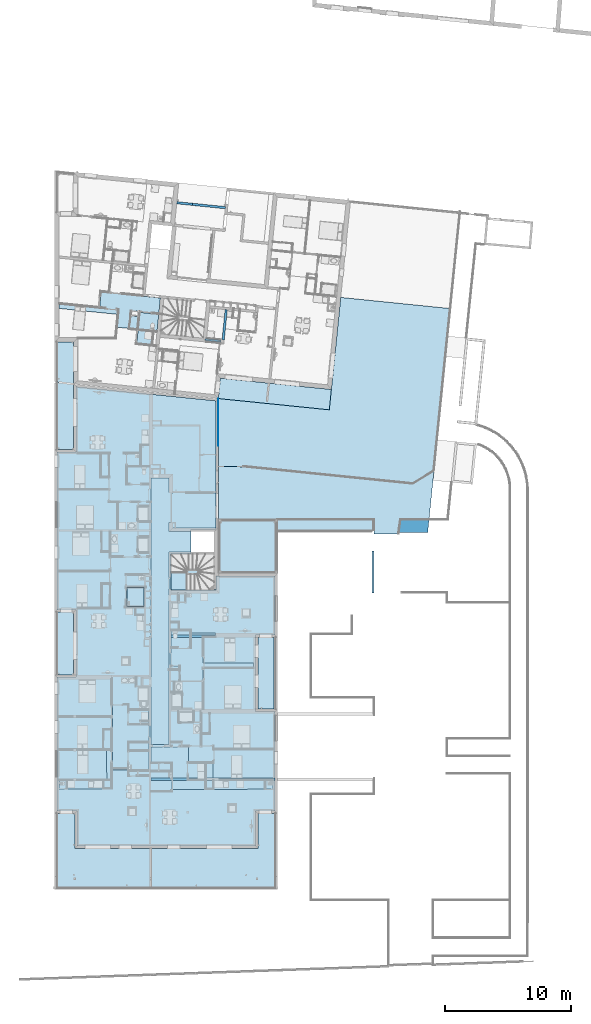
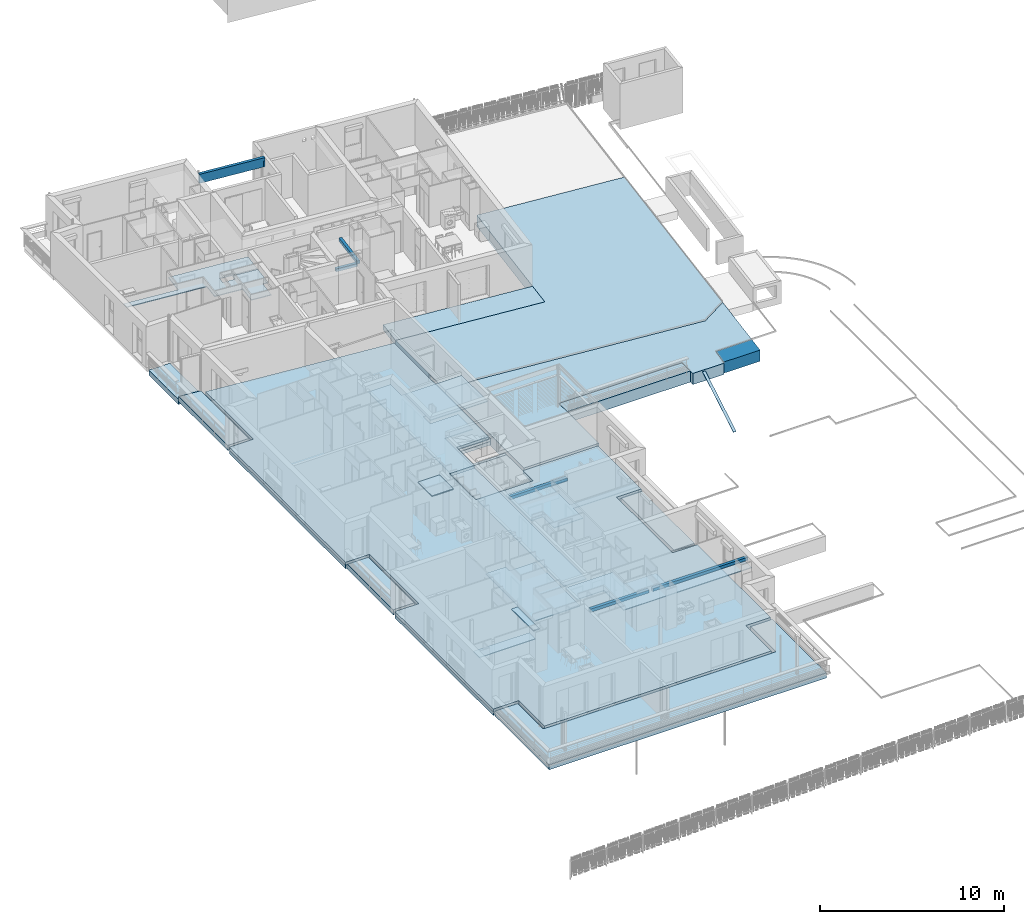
# One storey, part 18 of 171: 25 slabs, 7 beams.
"""IFC2X3 building model written with IfcOpenShell, lengths in millimetres."""

from ifc_helpers import new_model, entity, si_unit, converted_unit, derived_unit, money_unit, direction, frame, frame_2d, origin_with_axes, place, context, subcontext, project, spatial, polyline, rectangle, outline, extrude, material, layer, layer_set, layer_usage, type_object, element, save


model = new_model("IFC2X3")

# Units and contexts
model_context = context("Model", 3, precision=0.01, world=origin_with_axes(), true_north=direction((0.0, 1.0)))
body_context = subcontext(model_context, "Body", "Model", "MODEL_VIEW")
ifc_project = project(units=[si_unit("LENGTHUNIT", "METRE", prefix="MILLI"), si_unit("AREAUNIT", "SQUARE_METRE"), si_unit("VOLUMEUNIT", "CUBIC_METRE"), converted_unit("PLANEANGLEUNIT", "DEGREE", entity("IfcPlaneAngleMeasure", 0.0174532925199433), si_unit("PLANEANGLEUNIT", "RADIAN"), dimensions=[0, 0, 0, 0, 0, 0, 0]), money_unit("USD"), converted_unit("TIMEUNIT", "Year", entity("IfcTimeMeasure", 31557600.0), si_unit("TIMEUNIT", "SECOND"), dimensions=[0, 0, 1, 0, 0, 0, 0]), si_unit("MASSUNIT", "GRAM", prefix="KILO"), si_unit("THERMODYNAMICTEMPERATUREUNIT", "DEGREE_CELSIUS"), si_unit("LUMINOUSINTENSITYUNIT", "LUMEN"), si_unit("ENERGYUNIT", "JOULE", prefix="MEGA"), derived_unit("THERMALCONDUCTANCEUNIT", [(si_unit("POWERUNIT", "WATT"), 1), (si_unit("LENGTHUNIT", "METRE"), -1), (si_unit("THERMODYNAMICTEMPERATUREUNIT", "KELVIN"), -1)]), derived_unit("SPECIFICHEATCAPACITYUNIT", [(si_unit("ENERGYUNIT", "JOULE"), 1), (si_unit("MASSUNIT", "GRAM", prefix="KILO"), -1), (si_unit("THERMODYNAMICTEMPERATUREUNIT", "KELVIN"), -1)]), derived_unit("MASSDENSITYUNIT", [(si_unit("MASSUNIT", "GRAM", prefix="KILO"), 1), (si_unit("VOLUMEUNIT", "CUBIC_METRE"), -1)])], contexts=[model_context])

# Site, building, storey
site_placement = place(None, origin_with_axes())
site = spatial("IfcSite", under=ifc_project, at=site_placement, Name="Site", CompositionType="ELEMENT")
building_placement = place(site_placement, origin_with_axes())
building = spatial("IfcBuilding", under=site, at=building_placement, Name="Bâtiment", CompositionType="ELEMENT")
storey_placement = place(building_placement, frame((0.0, 0.0, 3000.0), z_axis=(0.0, 0.0, 1.0), x_axis=(1.0, 0.0, 0.0)))
storey = spatial("IfcBuildingStorey", under=building, at=storey_placement, Name="rdc", CompositionType="ELEMENT", Elevation=3000.0)

# Beams
ifc_material_1 = material(Name="Parpaing 2676271321")
beam_type_1 = type_object("IfcBeamType", Name="Parpaing 2676271321 180 x 200", PredefinedType="NOTDEFINED")
beam_1_placement = place(storey_placement, frame((2225892.31835671, -640935.3255383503, 2500.0), z_axis=(0.0, 0.0, 1.0), x_axis=(0.0, -1.0, 0.0)))
element("IfcBeam", 1, at=beam_1_placement, inside=storey, type_object=beam_type_1, material=ifc_material_1, Name="Poutre-010", context=body_context, shape_type="SweptSolid", body=[
    extrude(rectangle(XDim=200.0, YDim=180.0, at=frame_2d((-100.0, 0.0), x_axis=(1.0, 0.0))), frame((0.0, 0.0, 0.0), z_axis=(0.0, 1.0, 0.0), x_axis=(0.0, 0.0, 1.0)), (0.0, 0.0, 1.0), 3542.494535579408),
])
beam_2_placement = place(storey_placement, frame((2224312.122682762, -652323.3050478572, 2500.0), z_axis=(0.0, 0.0, 1.0), x_axis=(7.656579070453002e-05, -0.9999999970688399, 0.0)))
element("IfcBeam", 2, at=beam_2_placement, inside=storey, type_object=beam_type_1, material=ifc_material_1, Name="Poutre-010", context=body_context, shape_type="SweptSolid", body=[
    extrude(rectangle(XDim=200.0, YDim=180.0, at=frame_2d((-100.0, 0.0), x_axis=(1.0, 0.0))), frame((0.0, 0.0, 0.0), z_axis=(0.0, 1.0, 0.0), x_axis=(0.0, 0.0, 1.0)), (0.0, 0.0, 1.0), 3668.081799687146),
])
ifc_material_2 = material(Name="Brique 1 268964100")
beam_type_2 = type_object("IfcBeamType", Name="Brique 1 268964100 180 x 200", PredefinedType="NOTDEFINED")
beam_3_placement = place(storey_placement, frame((2230040.489356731, -617334.0619865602, 2300.0), z_axis=(0.0, 0.0, 1.0), x_axis=(0.9948759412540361, -0.1011032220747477, 0.0)))
element("IfcBeam", 3, at=beam_3_placement, inside=storey, type_object=beam_type_2, material=ifc_material_2, Name="Poutre-010", context=body_context, shape_type="SweptSolid", body=[
    extrude(rectangle(XDim=200.0, YDim=180.0, at=frame_2d((-100.0, 0.0), x_axis=(1.0, 0.0))), frame((0.0, 0.0, 0.0), z_axis=(0.0, 1.0, 0.0), x_axis=(0.0, 0.0, 1.0)), (0.0, 0.0, 1.0), 2403.976836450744),
])
beam_4_placement = place(storey_placement, frame((2228230.204709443, -652323.005056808, 2500.0), z_axis=(0.0, 0.0, 1.0), x_axis=(7.656579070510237e-05, -0.9999999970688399, 0.0)))
element("IfcBeam", 4, at=beam_4_placement, inside=storey, type_object=beam_type_2, material=ifc_material_2, Name="Poutre-010", context=body_context, shape_type="SweptSolid", body=[
    extrude(rectangle(XDim=200.0, YDim=180.0, at=frame_2d((-100.0, 0.0), x_axis=(1.0, 0.0))), frame((0.0, 0.0, 0.0), z_axis=(0.0, 1.0, 0.0), x_axis=(0.0, 0.0, 1.0)), (0.0, 0.0, 1.0), 5946.466605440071),
])
beam_5_placement = place(storey_placement, frame((2228610.301146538, -617315.562762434, 2300.0), z_axis=(0.0, 0.0, 1.0), x_axis=(-0.1011032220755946, -0.9948759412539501, 0.0)))
element("IfcBeam", 5, at=beam_5_placement, inside=storey, type_object=beam_type_2, material=ifc_material_2, Name="Poutre-010", context=body_context, shape_type="SweptSolid", body=[
    extrude(rectangle(XDim=200.0, YDim=180.0, at=frame_2d((-100.0, 0.0), x_axis=(1.0, 0.0))), frame((0.0, 0.0, 0.0), z_axis=(0.0, 1.0, 0.0), x_axis=(0.0, 0.0, 1.0)), (0.0, 0.0, 1.0), 1264.730172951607),
])
beam_type_3 = type_object("IfcBeamType", Name="Parpaing 2676271321 180 x 600", PredefinedType="NOTDEFINED")
beam_6_placement = place(storey_placement, frame((2226352.130988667, -606426.3743759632, 2750.0), z_axis=(0.0, 0.0, 1.0), x_axis=(-0.1017212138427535, -0.9948129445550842, 0.0)))
element("IfcBeam", 6, at=beam_6_placement, inside=storey, type_object=beam_type_3, material=ifc_material_1, Name="Poutre-010", context=body_context, shape_type="SweptSolid", body=[
    extrude(rectangle(XDim=600.0003846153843, YDim=180.0, at=frame_2d((-300.0001923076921, 0.0), x_axis=(1.0, 0.0))), frame((0.0, 0.0, 0.0), z_axis=(0.0, 1.0, 0.0), x_axis=(0.0, 0.0, 1.0)), (0.0, 0.0, 1.0), 3882.804537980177),
])
beam_type_4 = type_object("IfcBeamType", Name="Brique 1 268964100 180 x 400", PredefinedType="NOTDEFINED")
beam_7_placement = place(storey_placement, frame((2230214.795204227, -606821.3379666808, 2550.0), z_axis=(0.0, 0.0, 1.0), x_axis=(0.1020197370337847, 0.9947823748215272, 0.0)))
element("IfcBeam", 7, at=beam_7_placement, inside=storey, type_object=beam_type_4, material=ifc_material_2, Name="Poutre-010", context=body_context, shape_type="SweptSolid", body=[
    extrude(rectangle(XDim=400.0015925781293, YDim=180.0, at=frame_2d((-200.0007962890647, 0.0), x_axis=(1.0, 0.0))), frame((0.0, 0.0, 0.0), z_axis=(0.0, 1.0, 0.0), x_axis=(0.0, 0.0, 1.0)), (0.0, 0.0, 1.0), 2618.074726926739),
])

# Slabs
ifc_material_3 = material(Name="100 % (2) 313493396")
ifc_layer_1 = layer(ifc_material_3, 50.0, ventilated="UNKNOWN")
ifc_layer_set_1 = layer_set([ifc_layer_1], Name="dalle 5")
ifc_layer_usage_1 = layer_usage(ifc_layer_set_1, "AXIS3", "NEGATIVE", 50.0)
slab_type_1 = type_object("IfcSlabType", Name="dalle 5 50", PredefinedType="FLOOR")
slab_1_placement = place(storey_placement, frame((2225892.318356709, -642533.5434742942, 2300.0), z_axis=(0.0, 0.0, 1.0), x_axis=(1.0, 0.0, 0.0)))
element("IfcSlab", 8, at=slab_1_placement, inside=storey, type_object=slab_type_1, material=ifc_layer_usage_1, Name="Dalle-042", PredefinedType="FLOOR", context=body_context, shape_type="SweptSolid", body=[
    extrude(outline(polyline([(0.0, 0.0), (-0.005281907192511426, -749.5685941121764), (720.1120427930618, -749.6447132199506), (719.9840917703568, -1960.717417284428), (2538.332032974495, -1955.777904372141), (2538.332032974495, -889.0664764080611), (6574.339741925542, -891.8790627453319), (6574.339741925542, -518.6680570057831), (2538.332032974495, -518.6680570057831), (2538.332030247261, 1578.217935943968), (3542.494535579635, 1578.217935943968), (3542.494535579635, 1848.217935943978), (1520.000028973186, 1848.217935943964), (1520.000028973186, 2034.631520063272), (575.7473953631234, 2034.631520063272), (0.0, 2034.631520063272), (0.0, 0.0)])), frame((0.0, 0.0, -50.0), z_axis=(0.0, 0.0, 1.0), x_axis=(1.0, 0.0, 0.0)), (0.0, 0.0, 1.0), 50.0),
])
ifc_layer_usage_2 = layer_usage(ifc_layer_set_1, "AXIS3", "NEGATIVE", 50.0)
slab_2_placement = place(storey_placement, frame((2224312.357412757, -649729.5922298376, 2300.0), z_axis=(0.0, 0.0, 1.0), x_axis=(1.0, 0.0, 0.0)))
element("IfcSlab", 9, at=slab_2_placement, inside=storey, type_object=slab_type_1, material=ifc_layer_usage_2, Name="Dalle-032", PredefinedType="FLOOR", context=body_context, shape_type="SweptSolid", body=[
    extrude(outline(polyline([(0.0, 0.0), (-0.005953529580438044, -1254.759483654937), (1674.465558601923, -1254.759483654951), (1674.465536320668, -3397.344232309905), (2889.973121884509, -3397.344087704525), (9704.283930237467, -3375.757980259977), (9698.325033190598, -2683.261349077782), (4924.523158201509, -2683.342617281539), (4924.514991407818, -1245.353946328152), (2959.964931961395, -1245.353946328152), (2959.964931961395, -0.0004059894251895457), (2819.973121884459, -0.0002892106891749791), (0.0, 0.0)])), frame((0.0, 0.0, -50.0), z_axis=(0.0, 0.0, 1.0), x_axis=(1.0, 0.0, 0.0)), (0.0, 0.0, 1.0), 50.0),
])
ifc_layer_usage_3 = layer_usage(ifc_layer_set_1, "AXIS3", "NEGATIVE", 50.0)
slab_3_placement = place(storey_placement, frame((2222372.398589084, -638582.0258711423, 2300.0), z_axis=(0.0, 0.0, 1.0), x_axis=(1.0, 0.0, 0.0)))
element("IfcSlab", 10, at=slab_3_placement, inside=storey, type_object=slab_type_1, material=ifc_layer_usage_3, Name="Dalle-040", PredefinedType="FLOOR", context=body_context, shape_type="SweptSolid", body=[
    extrude(outline(polyline([(0.0, 0.0), (1360.00139188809, 0.0), (1360.00139188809, 1524.728116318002), (0.0003816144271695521, 1524.727802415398), (0.0, 0.0)])), frame((0.0, 0.0, -50.0), z_axis=(0.0, 0.0, 1.0), x_axis=(1.0, 0.0, 0.0)), (0.0, 0.0, 1.0), 50.0),
])
ifc_layer_usage_4 = layer_usage(ifc_layer_set_1, "AXIS3", "NEGATIVE", 50.0)
slab_4_placement = place(storey_placement, frame((2222372.398971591, -637057.2980687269, 2300.0), z_axis=(0.0, 0.0, 1.0), x_axis=(1.0, 0.0, 0.0)))
element("IfcSlab", 11, at=slab_4_placement, inside=storey, type_object=slab_type_1, material=ifc_layer_usage_4, Name="Dalle-041", PredefinedType="FLOOR", context=body_context, shape_type="SweptSolid", body=[
    extrude(outline(polyline([(0.0, 0.0), (-0.0003825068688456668, -1524.727446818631), (1360.001077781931, -1524.727802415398), (1360.001088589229, 0.0003139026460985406), (0.0, 0.0)])), frame((0.0, 0.0, -50.0), z_axis=(0.0, 0.0, 1.0), x_axis=(1.0, 0.0, 0.0)), (0.0, 0.0, 1.0), 50.0),
])
ifc_layer_usage_5 = layer_usage(ifc_layer_set_1, "AXIS3", "NEGATIVE", 50.0)
slab_5_placement = place(storey_placement, frame((2216974.23336761, -652412.6820336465, 2300.0), z_axis=(0.0, 0.0, 1.0), x_axis=(1.0, 0.0, 0.0)))
element("IfcSlab", 12, at=slab_5_placement, inside=storey, type_object=slab_type_1, material=ifc_layer_usage_5, Name="Dalle-032", PredefinedType="FLOOR", context=body_context, shape_type="SweptSolid", body=[
    extrude(outline(polyline([(0.0, 0.0), (0.0, -674.8797828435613), (3507.707715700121, -670.2777942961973), (3508.117809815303, 0.0), (0.0, 0.0)])), frame((0.0, 0.0, -50.0), z_axis=(0.0, 0.0, 1.0), x_axis=(1.0, 0.0, 0.0)), (0.0, 0.0, 1.0), 50.0),
])
ifc_layer_usage_6 = layer_usage(ifc_layer_set_1, "AXIS3", "NEGATIVE", 50.0)
slab_6_placement = place(storey_placement, frame((2229473.476037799, -629520.0608160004, 2300.0), z_axis=(0.0, 0.0, 1.0), x_axis=(1.0, 0.0, 0.0)))
element("IfcSlab", 13, at=slab_6_placement, inside=storey, type_object=slab_type_1, material=ifc_layer_usage_6, Name="Dalle-039", PredefinedType="FLOOR", context=body_context, shape_type="SweptSolid", body=[
    extrude(outline(polyline([(0.0, 0.0), (-3441.157681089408, 14.58837006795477), (-3441.157681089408, -20.73200067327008), (-3581.157674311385, -20.63364688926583), (-3581.157676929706, -2137.615520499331), (-3581.157681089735, -2813.453863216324), (-2891.772850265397, -2813.841832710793), (-5.503579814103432e-07, -2813.453863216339), (0.0, 0.0)])), frame((0.0, 0.0, -50.0), z_axis=(0.0, 0.0, 1.0), x_axis=(1.0, 0.0, 0.0)), (0.0, 0.0, 1.0), 50.0),
])
ifc_layer_usage_7 = layer_usage(ifc_layer_set_1, "AXIS3", "NEGATIVE", 50.0)
slab_7_placement = place(storey_placement, frame((2224312.367184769, -628327.4571735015, 2300.0), z_axis=(0.0, 0.0, 1.0), x_axis=(1.0, 0.0, 0.0)))
element("IfcSlab", 14, at=slab_7_placement, inside=storey, type_object=slab_type_1, material=ifc_layer_usage_7, Name="Dalle-038", PredefinedType="FLOOR", context=body_context, shape_type="SweptSolid", body=[
    extrude(outline(polyline([(0.0, 0.0), (-0.009803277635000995, -21222.13514609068), (1399.951056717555, -21222.13546232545), (1399.951056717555, -5886.05740444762), (3151.385984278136, -5886.05740444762), (3151.385984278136, -4286.057501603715), (1399.951056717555, -4286.057501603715), (1399.951056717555, -3533.206255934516), (1719.951227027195, -3533.206255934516), (1719.951227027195, -4006.057550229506), (5161.108816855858, -3990.598413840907), (5161.108816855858, -1178.01528641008), (1399.951056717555, -1178.01528641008), (1399.951056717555, 0.0), (0.0, 0.0)])), frame((0.0, 0.0, -50.0), z_axis=(0.0, 0.0, 1.0), x_axis=(1.0, 0.0, 0.0)), (0.0, 0.0, 1.0), 50.0),
])
ifc_layer_usage_8 = layer_usage(ifc_layer_set_1, "AXIS3", "NEGATIVE", 50.0)
slab_8_placement = place(storey_placement, frame((2216974.233348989, -614839.9992476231, 2300.0), z_axis=(0.0, 0.0, 1.0), x_axis=(1.0, 0.0, 0.0)))
element("IfcSlab", 15, at=slab_8_placement, inside=storey, type_object=slab_type_1, material=ifc_layer_usage_8, Name="Dalle-032", PredefinedType="FLOOR", context=body_context, shape_type="SweptSolid", body=[
    extrude(outline(polyline([(0.0, 0.0), (4732.006820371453, -481.2211752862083), (4628.493269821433, -1499.103841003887), (6299.963129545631, -1668.965252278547), (6186.106391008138, -2789.338239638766), (7369.717859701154, -2909.621461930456), (7483.574598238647, -1789.248474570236), (7801.489185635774, -1821.556262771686), (7939.654436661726, -465.4882039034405), (6437.775837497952, -312.8613497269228), (6402.389702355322, -661.0679391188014), (5666.181495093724, -586.251587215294), (5708.644833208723, -168.4037280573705), (7946.749802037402, -395.8487383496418), (8071.90127010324, 832.4921590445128), (6652.041438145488, 976.7839134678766), (3356.039623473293, 1311.96926248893), (3225.526277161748, 28.5884647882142), (3155.885488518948, 35.6705992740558), (0.0, 356.6083247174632), (0.0, 0.0)])), frame((0.0, 0.0, -50.0), z_axis=(0.0, 0.0, 1.0), x_axis=(1.0, 0.0, 0.0)), (0.0, 0.0, 1.0), 50.0),
])
ifc_layer_usage_9 = layer_usage(ifc_layer_set_1, "AXIS3", "NEGATIVE", 50.0)
slab_9_placement = place(storey_placement, frame((2220778.717084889, -652342.6820620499, 2300.0), z_axis=(0.0, 0.0, 1.0), x_axis=(1.0, 0.0, 0.0)))
element("IfcSlab", 16, at=slab_9_placement, inside=storey, type_object=slab_type_1, material=ifc_layer_usage_9, Name="Dalle-032", PredefinedType="FLOOR", context=body_context, shape_type="SweptSolid", body=[
    extrude(outline(polyline([(0.0, 0.0), (373.6340829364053, 0.0), (373.6340829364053, 2351.895436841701), (-18.8633619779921, 2351.895436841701), (0.0, 0.0)])), frame((0.0, 0.0, -50.0), z_axis=(0.0, 0.0, 1.0), x_axis=(1.0, 0.0, 0.0)), (0.0, 0.0, 1.0), 50.0),
])
ifc_layer_usage_10 = layer_usage(ifc_layer_set_1, "AXIS3", "NEGATIVE", 50.0)
slab_10_placement = place(storey_placement, frame((2221222.351124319, -651597.8639283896, 2300.0), z_axis=(0.0, 0.0, 1.0), x_axis=(1.0, 0.0, 0.0)))
element("IfcSlab", 17, at=slab_10_placement, inside=storey, type_object=slab_type_1, material=ifc_layer_usage_10, Name="Dalle-032", PredefinedType="FLOOR", context=body_context, shape_type="SweptSolid", body=[
    extrude(outline(polyline([(0.0, 0.0), (1249.999994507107, -0.5196026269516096), (2910.021103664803, -0.5196026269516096), (2910.019398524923, 4526.43891821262), (2910.020560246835, 4789.007032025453), (2200.652562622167, 4789.007074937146), (1249.999563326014, 4789.007074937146), (1249.999994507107, 5200.839104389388), (0.0, 5200.839104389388), (0.0, 1607.162237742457), (0.0, 99.48057364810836), (0.0, 0.0)])), frame((0.0, 0.0, -50.0), z_axis=(0.0, 0.0, 1.0), x_axis=(1.0, 0.0, 0.0)), (0.0, 0.0, 1.0), 50.0),
])
ifc_material_4 = material(Name="Parpaing 288701002")
ifc_layer_2 = layer(ifc_material_4, 200.0, ventilated="UNKNOWN")
ifc_layer_set_2 = layer_set([ifc_layer_2], Name="dalle 20 0025571715")
ifc_layer_usage_11 = layer_usage(ifc_layer_set_2, "AXIS3", "NEGATIVE", 200.0)
slab_type_2 = type_object("IfcSlabType", Name="dalle 20 0025571715 200", PredefinedType="FLOOR")
slab_11_placement = place(storey_placement, frame((2216814.23334483, -654861.4677782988, 0.0), z_axis=(0.0, 0.0, 1.0), x_axis=(1.0, 0.0, 0.0)))
element("IfcSlab", 18, at=slab_11_placement, inside=storey, type_object=slab_type_2, material=ifc_layer_usage_11, Name="Dalle-030", PredefinedType="FLOOR", context=body_context, shape_type="SweptSolid", body=[
    extrude(outline(polyline([(0.0, 0.0), (1599.999994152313, 0.0), (1599.999994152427, -2776.855298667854), (15812.42475380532, -2776.855298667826), (15812.62042775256, 0.0), (17362.40799762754, -1.27897692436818e-10), (17362.40800006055, 7943.026472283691), (15812.42475201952, 7943.02647259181), (15812.42475380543, 14016.14223994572), (17362.34504080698, 14016.14223994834), (17362.34504225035, 18728.1238835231), (12839.24269108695, 18728.12388358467), (12659.242691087, 18728.123883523), (12659.24269146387, 17628.12388353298), (9078.085011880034, 17628.12388353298), (9078.085011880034, 20467.95309907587), (12659.24269146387, 20467.95309907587), (12659.24269150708, 20647.95309907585), (10649.51986168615, 20647.95309907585), (10649.51986168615, 22247.95309908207), (12659.24269150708, 22247.95309908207), (12659.24269439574, 32666.30317116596), (1500.000000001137, 33800.34948340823), (1500.002345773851, 28610.25165211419), (0.003717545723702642, 28610.25165211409), (0.0778763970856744, 16024.65808517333), (1500.081581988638, 16024.65808517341), (1500.083335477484, 10665.09127631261), (1.13686837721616e-10, 10665.09125735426), (0.0, 0.0)])), frame((0.0, 0.0, -200.0), z_axis=(0.0, 0.0, 1.0), x_axis=(1.0, 0.0, 0.0)), (0.0, 0.0, 1.0), 200.0),
])
ifc_layer_usage_12 = layer_usage(ifc_layer_set_2, "AXIS3", "NEGATIVE", 200.0)
slab_12_placement = place(storey_placement, frame((2216814.23334483, -644196.3765209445, 0.0), z_axis=(0.0, 0.0, 1.0), x_axis=(1.0, 0.0, 0.0)))
element("IfcSlab", 19, at=slab_12_placement, inside=storey, type_object=slab_type_2, material=ifc_layer_usage_12, Name="Dalle-030", PredefinedType="FLOOR", context=body_context, shape_type="SweptSolid", body=[
    extrude(outline(polyline([(0.0, 0.0), (-1.13686837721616e-10, -10665.09125735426), (1599.999994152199, -10665.09125735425), (1599.999994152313, -13441.94655602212), (15812.4247538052, -13441.94655602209), (15812.62042775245, -10665.0912573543), (17362.40799762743, -10665.09125735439), (17362.40800006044, -2722.064785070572), (15812.42475201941, -2722.064784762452), (15812.42475380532, 3351.05098259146), (17362.34504080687, 3351.050982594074), (17362.34504225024, 8063.032626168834), (12839.24269108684, 8063.03262623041), (12659.24269108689, 8063.032626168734), (12659.24269146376, 6963.032626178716), (9078.08501187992, 6963.032626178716), (9078.08501187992, 9802.861841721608), (10649.51986168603, 9802.861841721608), (10649.51986168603, 11762.86184172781), (12659.24269196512, 11762.8618417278), (12659.24269439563, 22001.21191381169), (1500.000000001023, 23135.25822605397), (1500.002223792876, 17945.16238865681), (0.003595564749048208, 17945.16238865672), (0.07965015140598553, 5359.568821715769), (1500.083355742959, 5359.568821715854), (1500.08333547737, 1.895834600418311e-05), (0.0, 0.0)])), frame((0.0, 0.0, -200.0), z_axis=(0.0, 0.0, 1.0), x_axis=(1.0, 0.0, 0.0)), (0.0, 0.0, 1.0), 200.0),
])
ifc_layer_3 = layer(ifc_material_2, 50.0, ventilated="UNKNOWN")
ifc_layer_4 = layer(ifc_material_4, 230.0, ventilated="UNKNOWN")
ifc_material_5 = material(Name="Isolation toiture terrasse 288701002")
ifc_layer_5 = layer(ifc_material_5, 150.0, ventilated="UNKNOWN")
ifc_layer_set_3 = layer_set([ifc_layer_3, ifc_layer_4, ifc_layer_5], Name="dalle 23+ chape5+ isolant sousface15")
ifc_layer_usage_13 = layer_usage(ifc_layer_set_3, "AXIS3", "NEGATIVE", 430.0000000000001)
slab_type_3 = type_object("IfcSlabType", Name="dalle 23+ chape5+ isolant sousface15 430", PredefinedType="FLOOR")
slab_13_placement = place(storey_placement, frame((2216814.23334483, -644196.3765209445, 0.0), z_axis=(0.0, 0.0, 1.0), x_axis=(1.0, 0.0, 0.0)))
element("IfcSlab", 20, at=slab_13_placement, inside=storey, type_object=slab_type_3, material=ifc_layer_usage_13, Name="Dalle-030", PredefinedType="FLOOR", context=body_context, shape_type="SweptSolid", body=[
    extrude(outline(polyline([(0.0, 0.0), (-1.13686837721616e-10, -10665.09125735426), (1599.999994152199, -10665.09125735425), (1599.999994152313, -13441.94655602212), (15812.42475380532, -13441.94655602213), (15812.42413645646, -10666.30107646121), (17362.43795199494, -10665.09125735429), (17362.43790133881, -2722.064782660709), (15812.42475380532, -2542.064782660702), (15812.42475380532, 3351.05098259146), (17362.43795199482, 3351.050982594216), (17362.43795199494, 8063.032626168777), (12839.24269108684, 8063.03262623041), (12659.24269108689, 8063.032626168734), (12659.24269146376, 9802.861841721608), (12659.24269150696, 9982.861841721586), (10649.51986168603, 9982.861841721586), (10649.51986168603, 11582.8618417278), (12659.24269150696, 11582.8618417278), (12659.24269439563, 22001.21191381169), (1500.000000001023, 23135.25822605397), (1500.002345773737, 17945.16039475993), (0.003717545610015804, 17945.16039475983), (0.07787639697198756, 5359.566827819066), (1500.081581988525, 5359.566827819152), (1500.08333547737, 1.895834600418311e-05), (0.0, 0.0)])), frame((0.0, 0.0, -430.0000000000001), z_axis=(0.0, 0.0, 1.0), x_axis=(1.0, 0.0, 0.0)), (0.0, 0.0, 1.0), 430.0000000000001),
])
ifc_material_6 = material(Name="Pierre 285292438")
ifc_layer_6 = layer(ifc_material_6, 500.0, ventilated="UNKNOWN")
ifc_layer_7 = layer(ifc_material_4, 240.0, ventilated="UNKNOWN")
ifc_layer_set_4 = layer_set([ifc_layer_6, ifc_layer_7], Name="dalle 24 + gazon 50")
ifc_layer_usage_14 = layer_usage(ifc_layer_set_4, "AXIS3", "NEGATIVE", 740.0)
slab_type_4 = type_object("IfcSlabType", Name="dalle 24 + gazon 50 740", PredefinedType="FLOOR")
slab_14_placement = place(storey_placement, frame((2229653.476035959, -627438.398450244, 0.0), z_axis=(0.0, 0.0, 1.0), x_axis=(1.0, 0.0, 0.0)))
element("IfcSlab", 21, at=slab_14_placement, inside=storey, type_object=slab_type_4, material=ifc_layer_usage_14, Name="Dalle-031", PredefinedType="FLOOR", context=body_context, shape_type="SweptSolid", body=[
    extrude(outline(polyline([(0.0, 0.0), (0.0, -8514.945443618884), (3731.156597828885, -8514.945443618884), (4703.102165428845, -8516.329790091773), (4703.188208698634, -4219.31569888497), (12403.18168464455, -4219.469573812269), (12403.18168464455, -5351.266380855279), (14361.70571837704, -5351.266380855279), (14518.79750264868, -4219.512067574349), (16774.12753165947, -4219.557200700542), (17169.25960548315, -331.3779699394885), (15480.54984607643, -1372.203550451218), (2054.264327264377, -7.87665429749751), (1499.999976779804, 0.0), (0.0, 0.0)])), frame((0.0, 0.0, -740.0), z_axis=(0.0, 0.0, 1.0), x_axis=(1.0, 0.0, 0.0)), (0.0, 0.0, 1.0), 740.0),
])
ifc_layer_usage_15 = layer_usage(ifc_layer_set_4, "AXIS3", "NEGATIVE", 740.0)
slab_15_placement = place(storey_placement, frame((2229655.498061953, -622012.6322792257, 0.0), z_axis=(0.0, 0.0, 1.0), x_axis=(1.0, 0.0, 0.0)))
element("IfcSlab", 22, at=slab_15_placement, inside=storey, type_object=slab_type_4, material=ifc_layer_usage_15, Name="Dalle-032", PredefinedType="FLOOR", context=body_context, shape_type="SweptSolid", body=[
    extrude(outline(polyline([(0.0, 0.0), (-2.022025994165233, -5425.766146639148), (1497.977949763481, -5425.766146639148), (1974.728967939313, -5425.766146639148), (15478.52788790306, -6797.969754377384), (17167.23762117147, -5757.144124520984), (17710.43367111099, -411.9859133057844), (18480.24738804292, 7163.135648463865), (9742.366423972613, 8051.11360614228), (8832.95888148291, -897.6403243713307), (0.0, 0.0)])), frame((0.0, 0.0, -740.0), z_axis=(0.0, 0.0, 1.0), x_axis=(1.0, 0.0, 0.0)), (0.0, 0.0, 1.0), 740.0),
])
ifc_layer_usage_16 = layer_usage(ifc_layer_set_4, "AXIS3", "NEGATIVE", 740.0)
slab_16_placement = place(storey_placement, frame((2246432.684766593, -631607.955693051, 0.0), z_axis=(0.0, 0.0, 1.0), x_axis=(1.0, 0.0, 0.0)))
element("IfcSlab", 23, at=slab_16_placement, inside=storey, type_object=slab_type_4, material=ifc_layer_usage_16, Name="Dalle-032", PredefinedType="FLOOR", context=body_context, shape_type="SweptSolid", body=[
    extrude(outline(polyline([(0.0, 0.0), (-2253.471288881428, 0.0449963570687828), (-2403.622771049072, -1081.709059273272), (-109.9276032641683, -1081.709059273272), (0.0, 0.0)])), frame((0.0, 0.0, -740.0), z_axis=(0.0, 0.0, 1.0), x_axis=(1.0, 0.0, 0.0)), (0.0, 0.0, 1.0), 740.0),
])
ifc_layer_usage_17 = layer_usage(ifc_layer_set_4, "AXIS3", "NEGATIVE", 740.0)
slab_17_placement = place(storey_placement, frame((2242056.658568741, -631607.8681559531, 0.0), z_axis=(0.0, 0.0, 1.0), x_axis=(1.0, 0.0, 0.0)))
element("IfcSlab", 24, at=slab_17_placement, inside=storey, type_object=slab_type_4, material=ifc_layer_usage_17, Name="Dalle-032", PredefinedType="FLOOR", context=body_context, shape_type="SweptSolid", body=[
    extrude(outline(polyline([(0.0, 0.0), (-7715.656104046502, 0.1540629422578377), (-7700.011472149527, -901.8021437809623), (-0.00103475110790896, -901.7966251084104), (0.0, 0.0)])), frame((0.0, 0.0, -740.0), z_axis=(0.0, 0.0, 1.0), x_axis=(1.0, 0.0, 0.0)), (0.0, 0.0, 1.0), 740.0),
])
ifc_material_7 = material(Name="100 % 288701002")
ifc_layer_8 = layer(ifc_material_7, 40.0, ventilated="UNKNOWN")
ifc_material_8 = material(Name="AS_EMPTY 288701002")
ifc_layer_9 = layer(ifc_material_8, 100.0, ventilated="UNKNOWN")
ifc_layer_10 = layer(ifc_material_4, 200.0, ventilated="UNKNOWN")
ifc_layer_set_5 = layer_set([ifc_layer_8, ifc_layer_9, ifc_layer_10], Name="dalle 20+plots")
ifc_layer_usage_18 = layer_usage(ifc_layer_set_5, "AXIS3", "NEGATIVE", 340.0)
slab_type_5 = type_object("IfcSlabType", Name="dalle 20+plots 340", PredefinedType="FLOOR")
slab_18_placement = place(storey_placement, frame((2218134.314050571, -639016.8076992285, 0.0), z_axis=(0.0, 0.0, 1.0), x_axis=(1.0, 0.0, 0.0)))
element("IfcSlab", 25, at=slab_18_placement, inside=storey, type_object=slab_type_5, material=ifc_layer_usage_18, Name="Dalle-050", PredefinedType="FLOOR", context=body_context, shape_type="SweptSolid", body=[
    extrude(outline(polyline([(0.0, 0.0), (-1320.080705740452, 0.0), (-1320.080705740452, -4999.56878809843), (-0.06833916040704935, -4999.568805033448), (-0.08070247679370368, -2499.568822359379), (0.0, 0.0)])), frame((0.0, 0.0, -340.0), z_axis=(0.0, 0.0, 1.0), x_axis=(1.0, 0.0, 0.0)), (0.0, 0.0, 1.0), 340.0),
])
ifc_layer_usage_19 = layer_usage(ifc_layer_set_5, "AXIS3", "NEGATIVE", 340.0)
slab_19_placement = place(storey_placement, frame((2216814.233276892, -655041.4677779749, 0.0), z_axis=(0.0, 0.0, 1.0), x_axis=(1.0, 0.0, 0.0)))
element("IfcSlab", 26, at=slab_19_placement, inside=storey, type_object=slab_type_5, material=ifc_layer_usage_19, Name="Dalle-050", PredefinedType="FLOOR", context=body_context, shape_type="SweptSolid", body=[
    extrude(outline(polyline([(0.0, 0.0), (6.619268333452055e-05, -5876.850781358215), (17362.40806366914, -5876.438934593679), (17362.4080655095, -3.238653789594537e-07), (16400.0000620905, -1.278834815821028e-07), (15992.42482174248, -3.239080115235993e-07), (15992.42482174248, -2776.855298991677), (1420.000062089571, -2776.855298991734), (1420.000062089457, -3.238511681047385e-07), (0.0, 0.0)])), frame((0.0, 0.0, -340.0), z_axis=(0.0, 0.0, 1.0), x_axis=(1.0, 0.0, 0.0)), (0.0, 0.0, 1.0), 340.0),
])
ifc_layer_usage_20 = layer_usage(ifc_layer_set_5, "AXIS3", "NEGATIVE", 340.0)
slab_20_placement = place(storey_placement, frame((2216814.233347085, -620727.7552903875, 0.0), z_axis=(0.0, 0.0, 1.0), x_axis=(1.0, 0.0, 0.0)))
element("IfcSlab", 27, at=slab_20_placement, inside=storey, type_object=slab_type_5, material=ifc_layer_usage_20, Name="Dalle-050", PredefinedType="FLOOR", context=body_context, shape_type="SweptSolid", body=[
    extrude(outline(polyline([(0.0, 0.0), (-2.255319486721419e-06, -5343.458841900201), (1319.999997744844, -5343.458841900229), (1320.000015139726, -1236.82461215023), (1320.000010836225, -134.1436139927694), (0.0, 0.0)])), frame((0.0, 0.0, -340.0), z_axis=(0.0, 0.0, 1.0), x_axis=(1.0, 0.0, 0.0)), (0.0, 0.0, 1.0), 340.0),
])
ifc_layer_usage_21 = layer_usage(ifc_layer_set_5, "AXIS3", "NEGATIVE", 340.0)
slab_21_placement = place(storey_placement, frame((2229655.498106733, -622012.6322694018, 0.0), z_axis=(0.0, 0.0, 1.0), x_axis=(1.0, 0.0, 0.0)))
element("IfcSlab", 28, at=slab_21_placement, inside=storey, type_object=slab_type_5, material=ifc_layer_usage_21, Name="Dalle-050", PredefinedType="FLOOR", context=body_context, shape_type="SweptSolid", body=[
    extrude(outline(polyline([(0.0, 0.0), (8832.95882025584, -897.6402016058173), (8997.593867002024, 722.4021234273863), (164.6350467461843, 1620.042325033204), (0.0, 0.0)])), frame((0.0, 0.0, -340.0), z_axis=(0.0, 0.0, 1.0), x_axis=(1.0, 0.0, 0.0)), (0.0, 0.0, 1.0), 340.0),
])
ifc_layer_usage_22 = layer_usage(ifc_layer_set_5, "AXIS3", "NEGATIVE", 340.0)
slab_22_placement = place(storey_placement, frame((2218134.233344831, -617507.5058083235, -200.0000000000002), z_axis=(0.0, 0.0, 1.0), x_axis=(1.0, 0.0, 0.0)))
element("IfcSlab", 29, at=slab_22_placement, inside=storey, type_object=slab_type_5, material=ifc_layer_usage_22, Name="Dalle-050", PredefinedType="FLOOR", context=body_context, shape_type="SweptSolid", body=[
    extrude(outline(polyline([(0.0, 0.0), (-1319.999996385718, 0.0), (-1319.999997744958, -3199.556850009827), (0.0, -3334.290085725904), (0.0, 0.0)])), frame((0.0, 0.0, -340.0), z_axis=(0.0, 0.0, 1.0), x_axis=(1.0, 0.0, 0.0)), (0.0, 0.0, 1.0), 340.0),
])
ifc_layer_usage_23 = layer_usage(ifc_layer_set_5, "AXIS3", "NEGATIVE", 340.0)
slab_23_placement = place(storey_placement, frame((2232806.658098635, -641025.3255383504, 0.0), z_axis=(0.0, 0.0, 1.0), x_axis=(1.0, 0.0, 0.0)))
element("IfcSlab", 30, at=slab_23_placement, inside=storey, type_object=slab_type_5, material=ifc_layer_usage_23, Name="Dalle-050", PredefinedType="FLOOR", context=body_context, shape_type="SweptSolid", body=[
    extrude(outline(polyline([(0.0, 0.0), (-1.750095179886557e-06, -5713.115767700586), (1295.013198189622, -5713.115765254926), (1295.013166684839, 0.0), (0.0, 0.0)])), frame((0.0, 0.0, -340.0), z_axis=(0.0, 0.0, 1.0), x_axis=(1.0, 0.0, 0.0)), (0.0, 0.0, 1.0), 340.0),
])
ifc_layer_11 = layer(ifc_material_6, 300.0, ventilated="UNKNOWN")
ifc_layer_12 = layer(ifc_material_4, 240.0, ventilated="UNKNOWN")
ifc_layer_set_6 = layer_set([ifc_layer_11, ifc_layer_12], Name="dalle 24 + gazon 30 0025571715")
ifc_layer_usage_24 = layer_usage(ifc_layer_set_6, "AXIS3", "NEGATIVE", 540.0)
slab_type_6 = type_object("IfcSlabType", Name="dalle 24 + gazon 30 0025571715 540", PredefinedType="FLOOR")
slab_24_placement = place(storey_placement, frame((2229653.476038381, -625752.2800516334, 0.0), z_axis=(0.0, 0.0, 1.0), x_axis=(1.0, 0.0, 0.0)))
element("IfcSlab", 31, at=slab_24_placement, inside=storey, type_object=slab_type_6, material=ifc_layer_usage_24, Name="Dalle-029", PredefinedType="FLOOR", context=body_context, shape_type="SweptSolid", body=[
    extrude(outline(polyline([(0.0, 0.0), (2.022064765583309, 3739.647727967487), (8.830056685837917e-07, 3719.750214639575), (0.0, 0.0)])), frame((0.0, 0.0, -540.0), z_axis=(0.0, 0.0, 1.0), x_axis=(1.0, 0.0, 0.0)), (0.0, 0.0, 1.0), 540.0),
])
ifc_material_9 = material(Name="Isolant styromousse 288701002")
ifc_layer_13 = layer(ifc_material_9, 15.32088886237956, ventilated="UNKNOWN")
ifc_layer_set_7 = layer_set([ifc_layer_13], Name="Isolant styromousse 288701002 15.3209")
ifc_layer_usage_25 = layer_usage(ifc_layer_set_7, "AXIS3", "NEGATIVE", 15.32088886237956)
slab_type_7 = type_object("IfcSlabType", Name="Isolant styromousse 288701002 15", PredefinedType="ROOF")
slab_25_placement = place(storey_placement, frame((2242056.657570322, -637489.6647523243, -991.7114362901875), z_axis=(0.0, 0.0, 1.0), x_axis=(-1.0, 0.0, 0.0)))
element("IfcSlab", 32, at=slab_25_placement, inside=storey, type_object=slab_type_7, material=ifc_layer_usage_25, Name="Toit-022", PredefinedType="ROOF", context=body_context, shape_type="SweptSolid", body=[
    extrude(outline(polyline([(0.0, 0.0), (-1.13686837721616e-10, -3888.302253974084), (179.99999999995, -3888.302253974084), (179.99999999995, 0.0), (0.0, 0.0)])), frame((0.0, 0.0, 0.0), z_axis=(0.0, 0.5076582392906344, 0.8615585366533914), x_axis=(1.0, 0.0, 0.0)), (0.0, -0.5076582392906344, 0.8615585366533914), 17.78276020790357),
])

save(model, "model.ifc")
